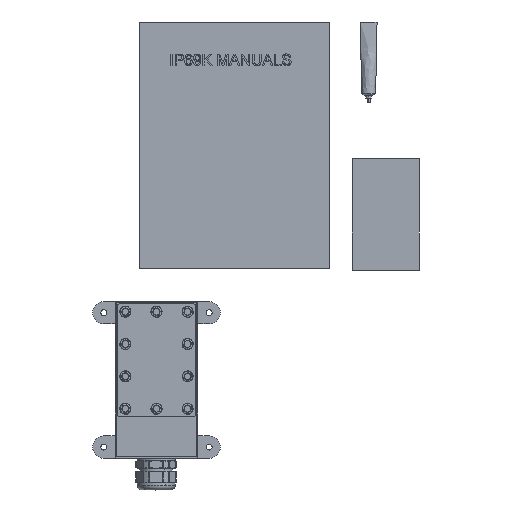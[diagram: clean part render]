
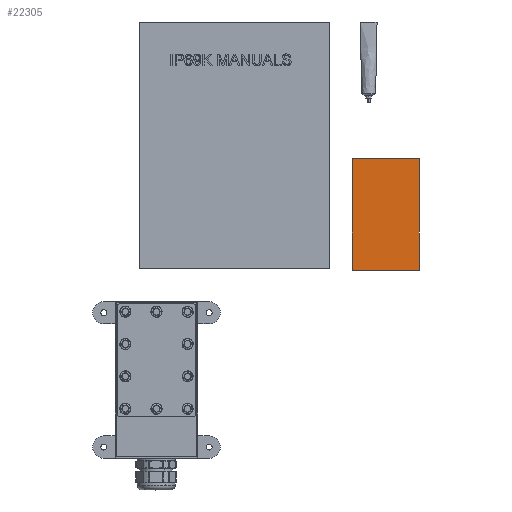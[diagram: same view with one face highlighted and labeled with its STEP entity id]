
A CAD part, top view. The second image highlights one B-rep face of the part: STEP entity #22305.
In plain terms, the highlighted planar face has unit normal (0, 0, 1).
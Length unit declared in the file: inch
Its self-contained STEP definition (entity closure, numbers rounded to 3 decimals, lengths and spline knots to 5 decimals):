
#388 = LINE ( 'NONE', #57443, #40925 ) ;
#511 = EDGE_CURVE ( 'NONE', #7968, #56691, #36713, .T. ) ;
#2977 = DIRECTION ( 'NONE',  ( 0., 0., 1. ) ) ;
#3874 = ORIENTED_EDGE ( 'NONE', *, *, #72484, .T. ) ;
#4551 = CARTESIAN_POINT ( 'NONE',  ( -1.5, 2.5, 0.001 ) ) ;
#7968 = VERTEX_POINT ( 'NONE', #26896 ) ;
#8759 = VECTOR ( 'NONE', #74450, 39.37008 ) ;
#11402 = EDGE_LOOP ( 'NONE', ( #51931, #3874, #54888, #57380 ) ) ;
#16876 = LINE ( 'NONE', #4551, #33093 ) ;
#20086 = DIRECTION ( 'NONE',  ( 0., -1., 0. ) ) ;
#22305 = ADVANCED_FACE ( 'NONE', ( #71489 ), #59205, .T. ) ;
#23507 = VECTOR ( 'NONE', #76102, 39.37008 ) ;
#23979 = CARTESIAN_POINT ( 'NONE',  ( -1.5, 2.5, 0.001 ) ) ;
#26896 = CARTESIAN_POINT ( 'NONE',  ( 1.5, -2.5, 0.001 ) ) ;
#26952 = AXIS2_PLACEMENT_3D ( 'NONE', #45673, #2977, #27202 ) ;
#27202 = DIRECTION ( 'NONE',  ( 1., 0., 0. ) ) ;
#33093 = VECTOR ( 'NONE', #66919, 39.37008 ) ;
#36713 = LINE ( 'NONE', #61766, #23507 ) ;
#40925 = VECTOR ( 'NONE', #20086, 39.37008 ) ;
#42203 = VERTEX_POINT ( 'NONE', #56436 ) ;
#44399 = CARTESIAN_POINT ( 'NONE',  ( 1.5, 2.5, 0.001 ) ) ;
#45673 = CARTESIAN_POINT ( 'NONE',  ( 0., 0., 0.001 ) ) ;
#51931 = ORIENTED_EDGE ( 'NONE', *, *, #511, .T. ) ;
#54888 = ORIENTED_EDGE ( 'NONE', *, *, #56113, .T. ) ;
#56113 = EDGE_CURVE ( 'NONE', #66106, #42203, #388, .T. ) ;
#56436 = CARTESIAN_POINT ( 'NONE',  ( -1.5, -2.5, 0.001 ) ) ;
#56691 = VERTEX_POINT ( 'NONE', #44399 ) ;
#57380 = ORIENTED_EDGE ( 'NONE', *, *, #80661, .T. ) ;
#57443 = CARTESIAN_POINT ( 'NONE',  ( -1.5, 2.5, 0.001 ) ) ;
#59205 = PLANE ( 'NONE',  #26952 ) ;
#61338 = CARTESIAN_POINT ( 'NONE',  ( -1.5, -2.5, 0.001 ) ) ;
#61766 = CARTESIAN_POINT ( 'NONE',  ( 1.5, 2.5, 0.001 ) ) ;
#66106 = VERTEX_POINT ( 'NONE', #23979 ) ;
#66919 = DIRECTION ( 'NONE',  ( -1., 0., 0. ) ) ;
#67479 = LINE ( 'NONE', #61338, #8759 ) ;
#71489 = FACE_OUTER_BOUND ( 'NONE', #11402, .T. ) ;
#72484 = EDGE_CURVE ( 'NONE', #56691, #66106, #16876, .T. ) ;
#74450 = DIRECTION ( 'NONE',  ( 1., 0., 0. ) ) ;
#76102 = DIRECTION ( 'NONE',  ( 0., 1., 0. ) ) ;
#80661 = EDGE_CURVE ( 'NONE', #42203, #7968, #67479, .T. ) ;
